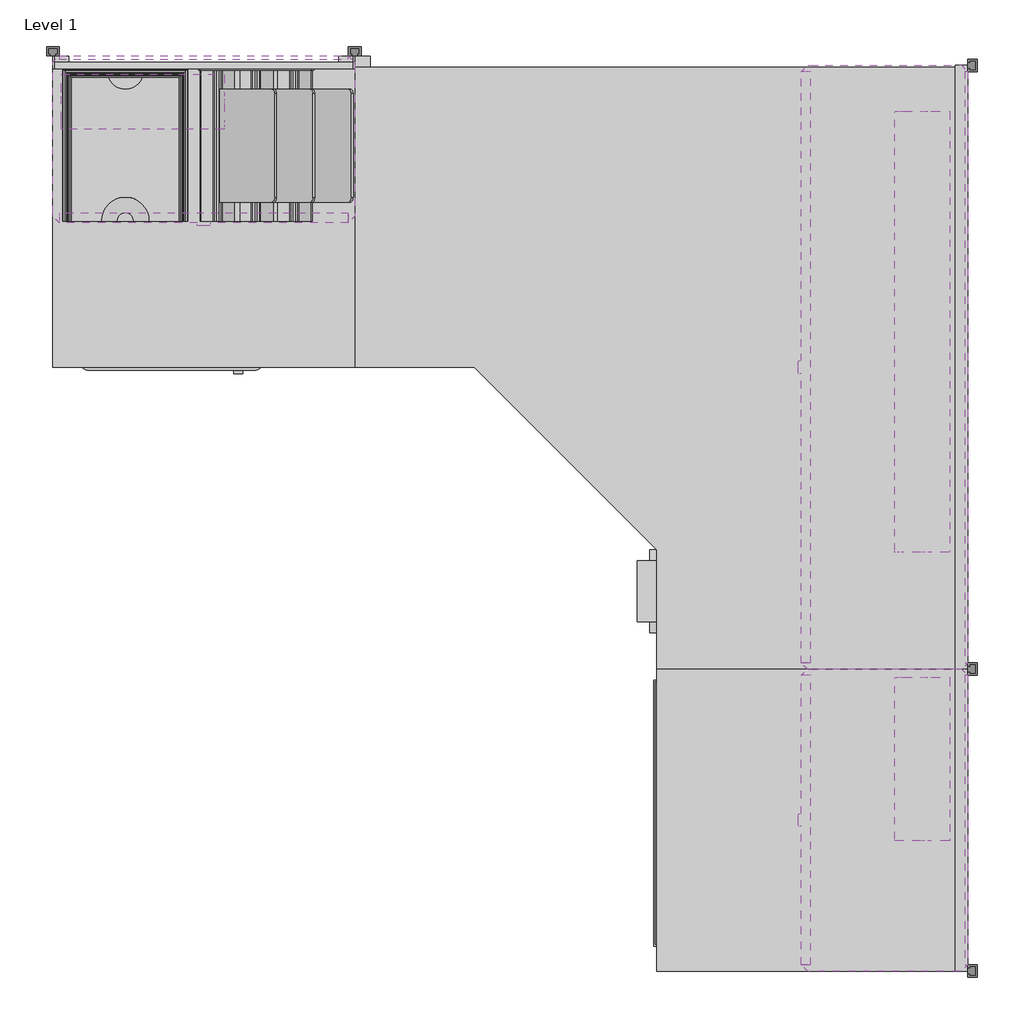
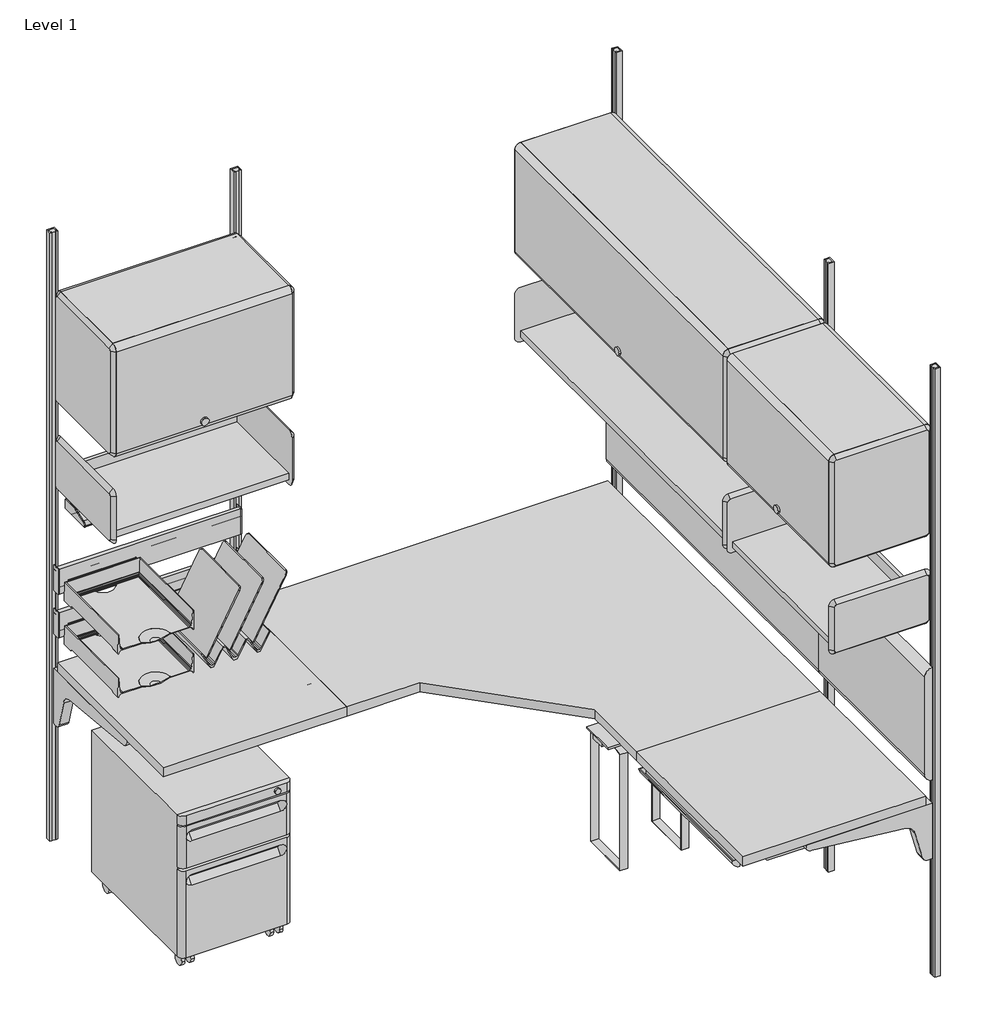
# One storey, incomplete: 24 furniture elements, 3 light fixtures.
"""IFC4 building model written with IfcOpenShell, lengths in millimetres."""

from ifc_helpers import new_model, si_unit, origin, place, context, project, spatial, transform, mapped, element, save
from components import furniture_84c54a78, furniture_d54c757f, furniture_75fc3fe0, furniture_a2665887, furniture_baef4f76, furniture_d4c6b201, furniture_d9179111, furniture_33cd207f, furniture_db9437f5, furniture_cb78dd66, furniture_6a59721d, furniture_2520e590, furniture_fea97cc0, furniture_ae017f2a, furniture_061b7ed1, furniture_ea425779, vertical_a4187a12, light_fixture_3e001c73, light_fixture_05727ef9

model = new_model("IFC4")

# Units and contexts
model_context = context("Model", 3, world=origin())
ifc_project = project(units=[si_unit("LENGTHUNIT", "METRE", prefix="MILLI")], contexts=[model_context])

# Site, building, storey
site = spatial("IfcSite", under=ifc_project)
building = spatial("IfcBuilding", under=site)
storey = spatial("IfcBuildingStorey", under=building, Name="Level 1", Elevation=0.0)

# Furniture
placement = place(None, origin())
furniture_shape = furniture_84c54a78(model_context)
element("IfcFurniture", 1, ObjectType="HermanMiller_QuadrantFiling_G5111_MobilePedestal : 21-1/2\"H x 20\"D x 15\"W BF", at=placement, inside=storey, context=model_context, shape_type="MappedRepresentation", body=[
    mapped(furniture_shape, transform((239.44326, -390.382763, 0.0), x_axis=(1.0, 0.0, 0.0), y_axis=(0.0, 1.0, 0.0), z_axis=(0.0, 0.0, 1.0))),
])
furniture_2_shape = furniture_d54c757f(model_context)
element("IfcFurniture", 2, ObjectType="HermanMiller_ThrivePortfolio_Y5010_PencilDrawer : 2\"H x 16\"D x 21\"W", at=placement, inside=storey, context=model_context, shape_type="MappedRepresentation", body=[
    mapped(furniture_2_shape, transform((1419.82698, -1548.02078, 0.0), x_axis=(0.0, -1.0, 0.0), y_axis=(1.0, 0.0, 0.0), z_axis=(0.0, 0.0, 1.0))),
])
furniture_3_shape = furniture_75fc3fe0(model_context)
element("IfcFurniture", 3, ObjectType="HermanMiller_ThrivePortfolio_Y7218_DiagonalTray : 8 1/2\"H x 12\"D x 13\"W", at=placement, inside=storey, context=model_context, shape_type="MappedRepresentation", body=[
    mapped(furniture_3_shape, transform((410.816817, -198.47052, 0.0), x_axis=(1.0, 0.0, 0.0), y_axis=(0.0, 1.0, 0.0), z_axis=(0.0, 0.0, 1.0))),
])
furniture_4_shape = furniture_a2665887(model_context)
element("IfcFurniture", 4, ObjectType="HermanMiller_ThrivePortfolio_Y7216_PaperTray : 3\"H x 12\"D x 10\"W", at=placement, inside=storey, context=model_context, shape_type="MappedRepresentation", body=[
    mapped(furniture_4_shape, transform((146.2024, -198.47052, 0.0), x_axis=(1.0, 0.0, 0.0), y_axis=(0.0, 1.0, 0.0), z_axis=(0.0, 0.0, 1.0))),
])
furniture_5_shape = furniture_baef4f76(model_context)
element("IfcFurniture", 5, ObjectType="HermanMiller_ThrivePortfolio_Y7216_PaperTray : 3\"H x 12\"D x 10\"W", at=placement, inside=storey, context=model_context, shape_type="MappedRepresentation", body=[
    mapped(furniture_5_shape, transform((146.2024, -198.47052, 0.0), x_axis=(1.0, 0.0, 0.0), y_axis=(0.0, 1.0, 0.0), z_axis=(0.0, 0.0, 1.0))),
])
furniture_6_shape = furniture_d4c6b201(model_context)
element("IfcFurniture", 6, ObjectType="HermanMiller_ActionOffice_A2310_Sq-EdgeRectangularWorkSurface : 24\"D x 24\"W", at=placement, inside=storey, context=model_context, shape_type="MappedRepresentation", body=[
    mapped(furniture_6_shape, transform((1533.525, -1562.1, 0.0), x_axis=(0.0, -1.0, 0.0), y_axis=(1.0, 0.0, 0.0), z_axis=(0.0, 0.0, 1.0))),
])
element("IfcFurniture", 7, ObjectType="HermanMiller_ActionOffice_A2310_Sq-EdgeRectangularWorkSurface : 24\"D x 24\"W", at=placement, inside=storey, context=model_context, shape_type="MappedRepresentation", body=[
    mapped(furniture_6_shape, transform((304.8, -333.375, 0.0), x_axis=(1.0, 0.0, 0.0), y_axis=(0.0, 1.0, 0.0), z_axis=(0.0, 0.0, 1.0))),
])
furniture_7_shape = furniture_d9179111(model_context)
element("IfcFurniture", 8, ObjectType="HermanMiller_ActionOffice_A3220_B-StyleStorageDisplay : Shelf 13\"D x 48\"W", at=placement, inside=storey, context=model_context, shape_type="MappedRepresentation", body=[
    mapped(furniture_7_shape, transform((1666.875, -771.6420045, 0.0), x_axis=(0.0, -1.0, 0.0), y_axis=(1.0, 0.0, 0.0), z_axis=(0.0, 0.0, 1.0))),
])
furniture_8_shape = furniture_33cd207f(model_context)
element("IfcFurniture", 9, ObjectType="HermanMiller_ActionOffice_A3352_B-StyleFlipperDoorUnit : 15 1/2\"H x 13\"D x 48\"W", at=placement, inside=storey, context=model_context, shape_type="MappedRepresentation", body=[
    mapped(furniture_8_shape, transform((1666.875, -647.7, 0.0), x_axis=(0.0, -1.0, 0.0), y_axis=(1.0, 0.0, 0.0), z_axis=(0.0, 0.0, 1.0))),
])
furniture_9_shape = furniture_db9437f5(model_context)
element("IfcFurniture", 10, ObjectType="HermanMiller_ActionOffice_A2332_Sq-EdgeCornerWorkSurface : 24\"D x 48\"W", at=placement, inside=storey, context=model_context, shape_type="MappedRepresentation", body=[
    mapped(furniture_9_shape, transform((1063.625, -781.05, 0.0), x_axis=(0.0, -1.0, 0.0), y_axis=(1.0, 0.0, 0.0), z_axis=(0.0, 0.0, 1.0))),
])
furniture_10_shape = furniture_cb78dd66(model_context)
element("IfcFurniture", 11, ObjectType="HermanMiller_ActionOffice_A3410_B-StyleTackboard : 16\"H x 48\"W", at=placement, inside=storey, context=model_context, shape_type="MappedRepresentation", body=[
    mapped(furniture_10_shape, transform((1835.15, -647.7, 0.0), x_axis=(0.0, -1.0, 0.0), y_axis=(1.0, 0.0, 0.0), z_axis=(0.0, 0.0, 1.0))),
])
furniture_11_shape = furniture_6a59721d(model_context)
element("IfcFurniture", 12, ObjectType="HermanMiller_ActionOffice_A3610_ToolBar : 4\"H x 24\"W", at=placement, inside=storey, context=model_context, shape_type="MappedRepresentation", body=[
    mapped(furniture_11_shape, transform((304.8, -31.7499996, 0.0), x_axis=(1.0, 0.0, 0.0), y_axis=(0.0, 1.0, 0.0), z_axis=(0.0, 0.0, 1.0))),
])
furniture_12_shape = furniture_2520e590(model_context)
element("IfcFurniture", 13, ObjectType="HermanMiller_ActionOffice_A3610_ToolBar : 4\"H x 24\"W", at=placement, inside=storey, context=model_context, shape_type="MappedRepresentation", body=[
    mapped(furniture_12_shape, transform((304.8, -31.7499996, 0.0), x_axis=(1.0, 0.0, 0.0), y_axis=(0.0, 1.0, 0.0), z_axis=(0.0, 0.0, 1.0))),
])
furniture_13_shape = furniture_fea97cc0(model_context)
element("IfcFurniture", 14, ObjectType="HermanMiller_ActionOffice_A3352_B-StyleFlipperDoorUnit : 15 1/2\"H x 13\"D x 24\"W", at=placement, inside=storey, context=model_context, shape_type="MappedRepresentation", body=[
    mapped(furniture_13_shape, transform((304.8, -200.025, 0.0), x_axis=(1.0, 0.0, 0.0), y_axis=(0.0, 1.0, 0.0), z_axis=(0.0, 0.0, 1.0))),
])
element("IfcFurniture", 15, ObjectType="HermanMiller_ActionOffice_A3352_B-StyleFlipperDoorUnit : 15 1/2\"H x 13\"D x 24\"W", at=placement, inside=storey, context=model_context, shape_type="MappedRepresentation", body=[
    mapped(furniture_13_shape, transform((1666.875, -1562.1, 0.0), x_axis=(0.0, -1.0, 0.0), y_axis=(1.0, 0.0, 0.0), z_axis=(0.0, 0.0, 1.0))),
])
furniture_14_shape = furniture_ae017f2a(model_context)
element("IfcFurniture", 16, ObjectType="HermanMiller_ActionOffice_A3220_B-StyleStorageDisplay : Shelf 13\"D x 24\"W", at=placement, inside=storey, context=model_context, shape_type="MappedRepresentation", body=[
    mapped(furniture_14_shape, transform((428.7420045, -200.025, 0.0), x_axis=(1.0, 0.0, 0.0), y_axis=(0.0, 1.0, 0.0), z_axis=(0.0, 0.0, 1.0))),
])
element("IfcFurniture", 17, ObjectType="HermanMiller_ActionOffice_A3220_B-StyleStorageDisplay : Shelf 13\"D x 24\"W", at=placement, inside=storey, context=model_context, shape_type="MappedRepresentation", body=[
    mapped(furniture_14_shape, transform((1666.875, -1686.0420045, 0.0), x_axis=(0.0, -1.0, 0.0), y_axis=(1.0, 0.0, 0.0), z_axis=(0.0, 0.0, 1.0))),
])
furniture_15_shape = furniture_061b7ed1(model_context)
element("IfcFurniture", 18, ObjectType="HermanMiller_ActionOffice_A3410_B-StyleTackboard : 16\"H x 24\"W", at=placement, inside=storey, context=model_context, shape_type="MappedRepresentation", body=[
    mapped(furniture_15_shape, transform((1835.15, -1562.1, 0.0), x_axis=(0.0, -1.0, 0.0), y_axis=(1.0, 0.0, 0.0), z_axis=(0.0, 0.0, 1.0))),
])
furniture_16_shape = furniture_ea425779(model_context)
element("IfcFurniture", 19, ObjectType="HermanMiller_ActionOffice_AO213_WallStrip : 84\"H", at=placement, inside=storey, context=model_context, shape_type="MappedRepresentation", body=[
    mapped(furniture_16_shape, transform((1866.9, -1257.3, 0.0), x_axis=(0.0, -1.0, 0.0), y_axis=(1.0, 0.0, 0.0), z_axis=(0.0, 0.0, 1.0))),
])
element("IfcFurniture", 20, ObjectType="HermanMiller_ActionOffice_AO213_WallStrip : 84\"H", at=placement, inside=storey, context=model_context, shape_type="MappedRepresentation", body=[
    mapped(furniture_16_shape, transform((0.0, 0.0, 0.0), x_axis=(1.0, 0.0, 0.0), y_axis=(0.0, 1.0, 0.0), z_axis=(0.0, 0.0, 1.0))),
])
element("IfcFurniture", 21, ObjectType="HermanMiller_ActionOffice_AO213_WallStrip : 84\"H", at=placement, inside=storey, context=model_context, shape_type="MappedRepresentation", body=[
    mapped(furniture_16_shape, transform((1866.9, -1866.9, 0.0), x_axis=(0.0, -1.0, 0.0), y_axis=(1.0, 0.0, 0.0), z_axis=(0.0, 0.0, 1.0))),
])
element("IfcFurniture", 22, ObjectType="HermanMiller_ActionOffice_AO213_WallStrip : 84\"H", at=placement, inside=storey, context=model_context, shape_type="MappedRepresentation", body=[
    mapped(furniture_16_shape, transform((609.6, 0.0, 0.0), x_axis=(1.0, 0.0, 0.0), y_axis=(0.0, 1.0, 0.0), z_axis=(0.0, 0.0, 1.0))),
])
element("IfcFurniture", 23, ObjectType="HermanMiller_ActionOffice_AO213_WallStrip : 84\"H", at=placement, inside=storey, context=model_context, shape_type="MappedRepresentation", body=[
    mapped(furniture_16_shape, transform((1866.9, -38.1, 0.0), x_axis=(0.0, -1.0, 0.0), y_axis=(1.0, 0.0, 0.0), z_axis=(0.0, 0.0, 1.0))),
])
vertical_shape = vertical_a4187a12(model_context)
element("IfcFurniture", 24, ObjectType="HermanMiller_ThrivePortfolio_Y7813_CPUHolder : Vertical", at=placement, inside=storey, context=model_context, shape_type="MappedRepresentation", body=[
    mapped(vertical_shape, transform((1319.97196, -1099.7438, 0.0), x_axis=(0.0, -1.0, 0.0), y_axis=(1.0, 0.0, 0.0), z_axis=(0.0, 0.0, 1.0))),
])

# Light fixtures
light_fixture_shape = light_fixture_3e001c73(model_context)
element("IfcLightFixture", 25, ObjectType="HermanMiller_SupplementalProducts_G6136_UtilityTaskLight : AO Etho Canvas 42W", at=placement, inside=storey, context=model_context, shape_type="MappedRepresentation", body=[
    mapped(light_fixture_shape, transform((1755.775, -575.818, 0.0), x_axis=(0.0, -1.0, 0.0), y_axis=(1.0, 0.0, 0.0), z_axis=(0.0, 0.0, 1.0))),
])
light_fixture_2_shape = light_fixture_05727ef9(model_context)
element("IfcLightFixture", 26, ObjectType="HermanMiller_SupplementalProducts_G6136_UtilityTaskLight : AO Etho Canvas 24W", at=placement, inside=storey, context=model_context, shape_type="MappedRepresentation", body=[
    mapped(light_fixture_2_shape, transform((181.229, -111.125, 0.0), x_axis=(1.0, 0.0, 0.0), y_axis=(0.0, 1.0, 0.0), z_axis=(0.0, 0.0, 1.0))),
])
element("IfcLightFixture", 27, ObjectType="HermanMiller_SupplementalProducts_G6136_UtilityTaskLight : AO Etho Canvas 24W", at=placement, inside=storey, context=model_context, shape_type="MappedRepresentation", body=[
    mapped(light_fixture_2_shape, transform((1755.775, -1438.529, 0.0), x_axis=(0.0, -1.0, 0.0), y_axis=(1.0, 0.0, 0.0), z_axis=(0.0, 0.0, 1.0))),
])

save(model, "model.ifc")
